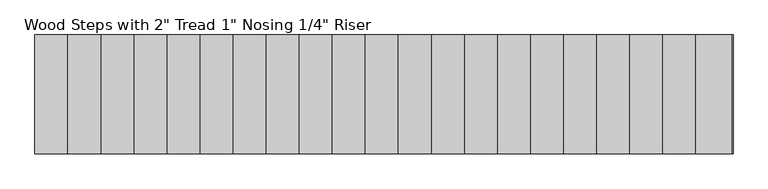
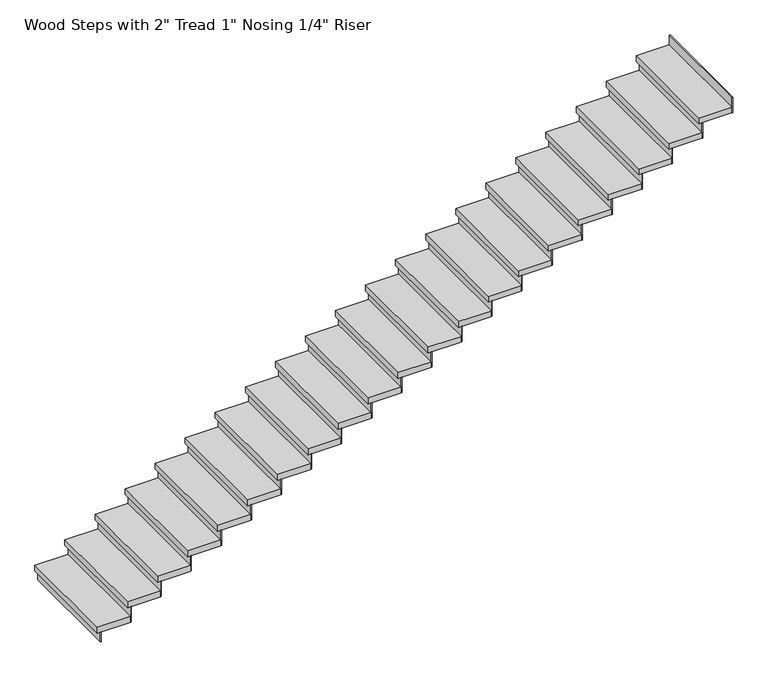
"""IFC4 building model written with IfcOpenShell, lengths in millimetres: stair flight geometry."""

from ifc_helpers import new_model, si_unit, frame, origin, origin_with_axes, place, context, project, spatial, polyline, outline, extrude, source, transform, mapped, element, save


def stair_flight_50f921ca(model_context):
    return source(origin(), model_context, "Body", "SweptSolid", [
        extrude(outline(polyline([(12178.3854393, 14931.0177722), (12172.0354393, 14931.0177722), (12172.0354393, 15845.4177722), (12178.3854393, 15845.4177722), (12178.3854393, 14931.0177722)])), origin_with_axes(), (0.0, 0.0, 1.0), 87.7454545),
        extrude(outline(polyline([(12426.0354393, 15845.4177722), (12426.0354393, 14931.0177722), (12146.6354393, 14931.0177722), (12146.6354393, 15845.4177722), (12426.0354393, 15845.4177722)])), frame((0.0, 0.0, 87.7454545), z_axis=(0.0, 0.0, 1.0), x_axis=(1.0, 0.0, 0.0)), (0.0, 0.0, 1.0), 50.8),
        extrude(outline(polyline([(12432.3854393, 14931.0177722), (12426.0354393, 14931.0177722), (12426.0354393, 15845.4177722), (12432.3854393, 15845.4177722), (12432.3854393, 14931.0177722)])), frame((0.0, 0.0, 87.7454545), z_axis=(0.0, 0.0, 1.0), x_axis=(1.0, 0.0, 0.0)), (0.0, 0.0, 1.0), 138.5454545),
        extrude(outline(polyline([(12680.0354393, 15845.4177722), (12680.0354393, 14931.0177722), (12400.6354393, 14931.0177722), (12400.6354393, 15845.4177722), (12680.0354393, 15845.4177722)])), frame((0.0, 0.0, 226.2909091), z_axis=(0.0, 0.0, 1.0), x_axis=(1.0, 0.0, 0.0)), (0.0, 0.0, 1.0), 50.8),
        extrude(outline(polyline([(12686.3854393, 14931.0177722), (12680.0354393, 14931.0177722), (12680.0354393, 15845.4177722), (12686.3854393, 15845.4177722), (12686.3854393, 14931.0177722)])), frame((0.0, 0.0, 226.2909091), z_axis=(0.0, 0.0, 1.0), x_axis=(1.0, 0.0, 0.0)), (0.0, 0.0, 1.0), 138.5454545),
        extrude(outline(polyline([(12934.0354393, 15845.4177722), (12934.0354393, 14931.0177722), (12654.6354393, 14931.0177722), (12654.6354393, 15845.4177722), (12934.0354393, 15845.4177722)])), frame((0.0, 0.0, 364.8363636), z_axis=(0.0, 0.0, 1.0), x_axis=(1.0, 0.0, 0.0)), (0.0, 0.0, 1.0), 50.8),
        extrude(outline(polyline([(12940.3854393, 14931.0177722), (12934.0354393, 14931.0177722), (12934.0354393, 15845.4177722), (12940.3854393, 15845.4177722), (12940.3854393, 14931.0177722)])), frame((0.0, 0.0, 364.8363636), z_axis=(0.0, 0.0, 1.0), x_axis=(1.0, 0.0, 0.0)), (0.0, 0.0, 1.0), 138.5454545),
        extrude(outline(polyline([(13188.0354393, 15845.4177722), (13188.0354393, 14931.0177722), (12908.6354393, 14931.0177722), (12908.6354393, 15845.4177722), (13188.0354393, 15845.4177722)])), frame((0.0, 0.0, 503.3818182), z_axis=(0.0, 0.0, 1.0), x_axis=(1.0, 0.0, 0.0)), (0.0, 0.0, 1.0), 50.8),
        extrude(outline(polyline([(13194.3854393, 14931.0177722), (13188.0354393, 14931.0177722), (13188.0354393, 15845.4177722), (13194.3854393, 15845.4177722), (13194.3854393, 14931.0177722)])), frame((0.0, 0.0, 503.3818182), z_axis=(0.0, 0.0, 1.0), x_axis=(1.0, 0.0, 0.0)), (0.0, 0.0, 1.0), 138.5454545),
        extrude(outline(polyline([(13442.0354393, 15845.4177722), (13442.0354393, 14931.0177722), (13162.6354393, 14931.0177722), (13162.6354393, 15845.4177722), (13442.0354393, 15845.4177722)])), frame((0.0, 0.0, 641.9272727), z_axis=(0.0, 0.0, 1.0), x_axis=(1.0, 0.0, 0.0)), (0.0, 0.0, 1.0), 50.8),
        extrude(outline(polyline([(13448.3854393, 14931.0177722), (13442.0354393, 14931.0177722), (13442.0354393, 15845.4177722), (13448.3854393, 15845.4177722), (13448.3854393, 14931.0177722)])), frame((0.0, 0.0, 641.9272727), z_axis=(0.0, 0.0, 1.0), x_axis=(1.0, 0.0, 0.0)), (0.0, 0.0, 1.0), 138.5454545),
        extrude(outline(polyline([(13696.0354393, 15845.4177722), (13696.0354393, 14931.0177722), (13416.6354393, 14931.0177722), (13416.6354393, 15845.4177722), (13696.0354393, 15845.4177722)])), frame((0.0, 0.0, 780.4727273), z_axis=(0.0, 0.0, 1.0), x_axis=(1.0, 0.0, 0.0)), (0.0, 0.0, 1.0), 50.8),
        extrude(outline(polyline([(13702.3854393, 14931.0177722), (13696.0354393, 14931.0177722), (13696.0354393, 15845.4177722), (13702.3854393, 15845.4177722), (13702.3854393, 14931.0177722)])), frame((0.0, 0.0, 780.4727273), z_axis=(0.0, 0.0, 1.0), x_axis=(1.0, 0.0, 0.0)), (0.0, 0.0, 1.0), 138.5454545),
        extrude(outline(polyline([(13950.0354393, 15845.4177722), (13950.0354393, 14931.0177722), (13670.6354393, 14931.0177722), (13670.6354393, 15845.4177722), (13950.0354393, 15845.4177722)])), frame((0.0, 0.0, 919.0181818), z_axis=(0.0, 0.0, 1.0), x_axis=(1.0, 0.0, 0.0)), (0.0, 0.0, 1.0), 50.8),
        extrude(outline(polyline([(13956.3854393, 14931.0177722), (13950.0354393, 14931.0177722), (13950.0354393, 15845.4177722), (13956.3854393, 15845.4177722), (13956.3854393, 14931.0177722)])), frame((0.0, 0.0, 919.0181818), z_axis=(0.0, 0.0, 1.0), x_axis=(1.0, 0.0, 0.0)), (0.0, 0.0, 1.0), 138.5454545),
        extrude(outline(polyline([(14204.0354393, 15845.4177722), (14204.0354393, 14931.0177722), (13924.6354393, 14931.0177722), (13924.6354393, 15845.4177722), (14204.0354393, 15845.4177722)])), frame((0.0, 0.0, 1057.5636364), z_axis=(0.0, 0.0, 1.0), x_axis=(1.0, 0.0, 0.0)), (0.0, 0.0, 1.0), 50.8),
        extrude(outline(polyline([(14210.3854393, 14931.0177722), (14204.0354393, 14931.0177722), (14204.0354393, 15845.4177722), (14210.3854393, 15845.4177722), (14210.3854393, 14931.0177722)])), frame((0.0, 0.0, 1057.5636364), z_axis=(0.0, 0.0, 1.0), x_axis=(1.0, 0.0, 0.0)), (0.0, 0.0, 1.0), 138.5454545),
        extrude(outline(polyline([(14458.0354393, 15845.4177722), (14458.0354393, 14931.0177722), (14178.6354393, 14931.0177722), (14178.6354393, 15845.4177722), (14458.0354393, 15845.4177722)])), frame((0.0, 0.0, 1196.1090909), z_axis=(0.0, 0.0, 1.0), x_axis=(1.0, 0.0, 0.0)), (0.0, 0.0, 1.0), 50.8),
        extrude(outline(polyline([(14464.3854393, 14931.0177722), (14458.0354393, 14931.0177722), (14458.0354393, 15845.4177722), (14464.3854393, 15845.4177722), (14464.3854393, 14931.0177722)])), frame((0.0, 0.0, 1196.1090909), z_axis=(0.0, 0.0, 1.0), x_axis=(1.0, 0.0, 0.0)), (0.0, 0.0, 1.0), 138.5454545),
        extrude(outline(polyline([(14712.0354393, 15845.4177722), (14712.0354393, 14931.0177722), (14432.6354393, 14931.0177722), (14432.6354393, 15845.4177722), (14712.0354393, 15845.4177722)])), frame((0.0, 0.0, 1334.6545455), z_axis=(0.0, 0.0, 1.0), x_axis=(1.0, 0.0, 0.0)), (0.0, 0.0, 1.0), 50.8),
        extrude(outline(polyline([(14718.3854393, 14931.0177722), (14712.0354393, 14931.0177722), (14712.0354393, 15845.4177722), (14718.3854393, 15845.4177722), (14718.3854393, 14931.0177722)])), frame((0.0, 0.0, 1334.6545455), z_axis=(0.0, 0.0, 1.0), x_axis=(1.0, 0.0, 0.0)), (0.0, 0.0, 1.0), 138.5454545),
        extrude(outline(polyline([(14966.0354393, 15845.4177722), (14966.0354393, 14931.0177722), (14686.6354393, 14931.0177722), (14686.6354393, 15845.4177722), (14966.0354393, 15845.4177722)])), frame((0.0, 0.0, 1473.2), z_axis=(0.0, 0.0, 1.0), x_axis=(1.0, 0.0, 0.0)), (0.0, 0.0, 1.0), 50.8),
        extrude(outline(polyline([(14972.3854393, 14931.0177722), (14966.0354393, 14931.0177722), (14966.0354393, 15845.4177722), (14972.3854393, 15845.4177722), (14972.3854393, 14931.0177722)])), frame((0.0, 0.0, 1473.2), z_axis=(0.0, 0.0, 1.0), x_axis=(1.0, 0.0, 0.0)), (0.0, 0.0, 1.0), 138.5454545),
        extrude(outline(polyline([(15220.0354393, 15845.4177722), (15220.0354393, 14931.0177722), (14940.6354393, 14931.0177722), (14940.6354393, 15845.4177722), (15220.0354393, 15845.4177722)])), frame((0.0, 0.0, 1611.7454545), z_axis=(0.0, 0.0, 1.0), x_axis=(1.0, 0.0, 0.0)), (0.0, 0.0, 1.0), 50.8),
        extrude(outline(polyline([(15226.3854393, 14931.0177722), (15220.0354393, 14931.0177722), (15220.0354393, 15845.4177722), (15226.3854393, 15845.4177722), (15226.3854393, 14931.0177722)])), frame((0.0, 0.0, 1611.7454545), z_axis=(0.0, 0.0, 1.0), x_axis=(1.0, 0.0, 0.0)), (0.0, 0.0, 1.0), 138.5454545),
        extrude(outline(polyline([(15474.0354393, 15845.4177722), (15474.0354393, 14931.0177722), (15194.6354393, 14931.0177722), (15194.6354393, 15845.4177722), (15474.0354393, 15845.4177722)])), frame((0.0, 0.0, 1750.2909091), z_axis=(0.0, 0.0, 1.0), x_axis=(1.0, 0.0, 0.0)), (0.0, 0.0, 1.0), 50.8),
        extrude(outline(polyline([(15480.3854393, 14931.0177722), (15474.0354393, 14931.0177722), (15474.0354393, 15845.4177722), (15480.3854393, 15845.4177722), (15480.3854393, 14931.0177722)])), frame((0.0, 0.0, 1750.2909091), z_axis=(0.0, 0.0, 1.0), x_axis=(1.0, 0.0, 0.0)), (0.0, 0.0, 1.0), 138.5454545),
        extrude(outline(polyline([(15728.0354393, 15845.4177722), (15728.0354393, 14931.0177722), (15448.6354393, 14931.0177722), (15448.6354393, 15845.4177722), (15728.0354393, 15845.4177722)])), frame((0.0, 0.0, 1888.8363636), z_axis=(0.0, 0.0, 1.0), x_axis=(1.0, 0.0, 0.0)), (0.0, 0.0, 1.0), 50.8),
        extrude(outline(polyline([(15734.3854393, 14931.0177722), (15728.0354393, 14931.0177722), (15728.0354393, 15845.4177722), (15734.3854393, 15845.4177722), (15734.3854393, 14931.0177722)])), frame((0.0, 0.0, 1888.8363636), z_axis=(0.0, 0.0, 1.0), x_axis=(1.0, 0.0, 0.0)), (0.0, 0.0, 1.0), 138.5454545),
        extrude(outline(polyline([(15982.0354393, 15845.4177722), (15982.0354393, 14931.0177722), (15702.6354393, 14931.0177722), (15702.6354393, 15845.4177722), (15982.0354393, 15845.4177722)])), frame((0.0, 0.0, 2027.3818182), z_axis=(0.0, 0.0, 1.0), x_axis=(1.0, 0.0, 0.0)), (0.0, 0.0, 1.0), 50.8),
        extrude(outline(polyline([(15988.3854393, 14931.0177722), (15982.0354393, 14931.0177722), (15982.0354393, 15845.4177722), (15988.3854393, 15845.4177722), (15988.3854393, 14931.0177722)])), frame((0.0, 0.0, 2027.3818182), z_axis=(0.0, 0.0, 1.0), x_axis=(1.0, 0.0, 0.0)), (0.0, 0.0, 1.0), 138.5454545),
        extrude(outline(polyline([(16236.0354393, 15845.4177722), (16236.0354393, 14931.0177722), (15956.6354393, 14931.0177722), (15956.6354393, 15845.4177722), (16236.0354393, 15845.4177722)])), frame((0.0, 0.0, 2165.9272727), z_axis=(0.0, 0.0, 1.0), x_axis=(1.0, 0.0, 0.0)), (0.0, 0.0, 1.0), 50.8),
        extrude(outline(polyline([(16242.3854393, 14931.0177722), (16236.0354393, 14931.0177722), (16236.0354393, 15845.4177722), (16242.3854393, 15845.4177722), (16242.3854393, 14931.0177722)])), frame((0.0, 0.0, 2165.9272727), z_axis=(0.0, 0.0, 1.0), x_axis=(1.0, 0.0, 0.0)), (0.0, 0.0, 1.0), 138.5454545),
        extrude(outline(polyline([(16490.0354393, 15845.4177722), (16490.0354393, 14931.0177722), (16210.6354393, 14931.0177722), (16210.6354393, 15845.4177722), (16490.0354393, 15845.4177722)])), frame((0.0, 0.0, 2304.4727273), z_axis=(0.0, 0.0, 1.0), x_axis=(1.0, 0.0, 0.0)), (0.0, 0.0, 1.0), 50.8),
        extrude(outline(polyline([(16496.3854393, 14931.0177722), (16490.0354393, 14931.0177722), (16490.0354393, 15845.4177722), (16496.3854393, 15845.4177722), (16496.3854393, 14931.0177722)])), frame((0.0, 0.0, 2304.4727273), z_axis=(0.0, 0.0, 1.0), x_axis=(1.0, 0.0, 0.0)), (0.0, 0.0, 1.0), 138.5454545),
        extrude(outline(polyline([(16744.0354393, 15845.4177722), (16744.0354393, 14931.0177722), (16464.6354393, 14931.0177722), (16464.6354393, 15845.4177722), (16744.0354393, 15845.4177722)])), frame((0.0, 0.0, 2443.0181818), z_axis=(0.0, 0.0, 1.0), x_axis=(1.0, 0.0, 0.0)), (0.0, 0.0, 1.0), 50.8),
        extrude(outline(polyline([(16750.3854393, 14931.0177722), (16744.0354393, 14931.0177722), (16744.0354393, 15845.4177722), (16750.3854393, 15845.4177722), (16750.3854393, 14931.0177722)])), frame((0.0, 0.0, 2443.0181818), z_axis=(0.0, 0.0, 1.0), x_axis=(1.0, 0.0, 0.0)), (0.0, 0.0, 1.0), 138.5454545),
        extrude(outline(polyline([(16998.0354393, 15845.4177722), (16998.0354393, 14931.0177722), (16718.6354393, 14931.0177722), (16718.6354393, 15845.4177722), (16998.0354393, 15845.4177722)])), frame((0.0, 0.0, 2581.5636364), z_axis=(0.0, 0.0, 1.0), x_axis=(1.0, 0.0, 0.0)), (0.0, 0.0, 1.0), 50.8),
        extrude(outline(polyline([(17004.3854393, 14931.0177722), (16998.0354393, 14931.0177722), (16998.0354393, 15845.4177722), (17004.3854393, 15845.4177722), (17004.3854393, 14931.0177722)])), frame((0.0, 0.0, 2581.5636364), z_axis=(0.0, 0.0, 1.0), x_axis=(1.0, 0.0, 0.0)), (0.0, 0.0, 1.0), 138.5454545),
        extrude(outline(polyline([(17252.0354393, 15845.4177722), (17252.0354393, 14931.0177722), (16972.6354393, 14931.0177722), (16972.6354393, 15845.4177722), (17252.0354393, 15845.4177722)])), frame((0.0, 0.0, 2720.1090909), z_axis=(0.0, 0.0, 1.0), x_axis=(1.0, 0.0, 0.0)), (0.0, 0.0, 1.0), 50.8),
        extrude(outline(polyline([(17258.3854393, 14931.0177722), (17252.0354393, 14931.0177722), (17252.0354393, 15845.4177722), (17258.3854393, 15845.4177722), (17258.3854393, 14931.0177722)])), frame((0.0, 0.0, 2720.1090909), z_axis=(0.0, 0.0, 1.0), x_axis=(1.0, 0.0, 0.0)), (0.0, 0.0, 1.0), 138.5454545),
        extrude(outline(polyline([(17512.3854393, 14931.0177722), (17506.0354393, 14931.0177722), (17506.0354393, 15845.4177722), (17512.3854393, 15845.4177722), (17512.3854393, 14931.0177722)])), frame((0.0, 0.0, 2858.6545455), z_axis=(0.0, 0.0, 1.0), x_axis=(1.0, 0.0, 0.0)), (0.0, 0.0, 1.0), 138.5454545),
        extrude(outline(polyline([(17506.0354393, 15845.4177722), (17506.0354393, 14931.0177722), (17226.6354393, 14931.0177722), (17226.6354393, 15845.4177722), (17506.0354393, 15845.4177722)])), frame((0.0, 0.0, 2858.6545455), z_axis=(0.0, 0.0, 1.0), x_axis=(1.0, 0.0, 0.0)), (0.0, 0.0, 1.0), 50.8),
    ])


if __name__ == "__main__":
    model = new_model("IFC4")
    model_context = context("Model", 3, world=origin())
    ifc_project = project(units=[si_unit("LENGTHUNIT", "METRE", prefix="MILLI")], contexts=[model_context])
    site = spatial("IfcSite", under=ifc_project)
    building = spatial("IfcBuilding", under=site)
    placement = place(None, origin())
    stair_flight_shape = stair_flight_50f921ca(model_context)
    element("IfcStairFlight", 1, ObjectType="Wood Steps with 2\" Tread 1\" Nosing 1/4\" Riser", at=placement, inside=building, context=model_context, shape_type="MappedRepresentation", body=[
        mapped(stair_flight_shape, transform((0.0, 0.0, 0.0), x_axis=(1.0, 0.0, 0.0), y_axis=(0.0, 1.0, 0.0), z_axis=(0.0, 0.0, 1.0))),
    ])
    save(model, "model.ifc")
